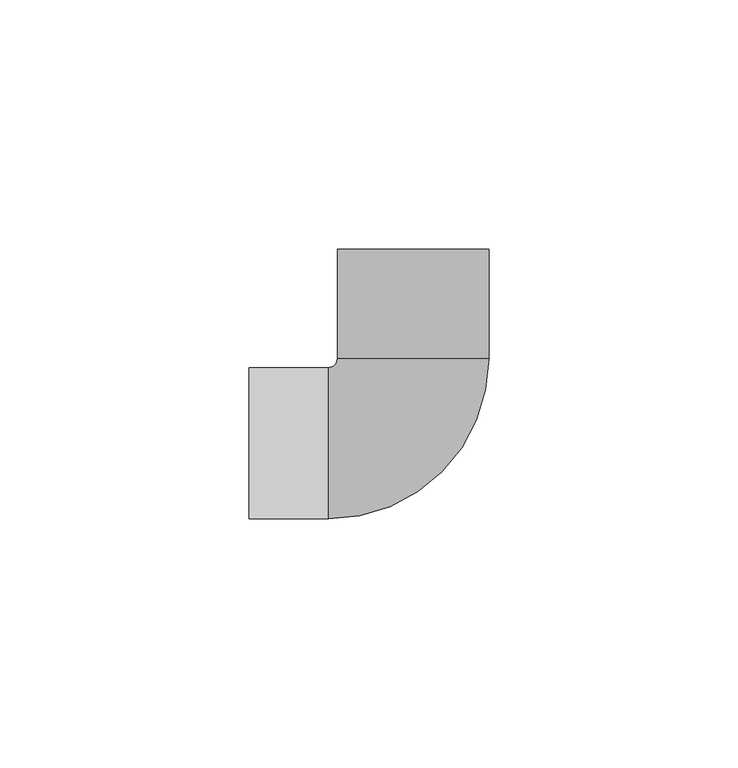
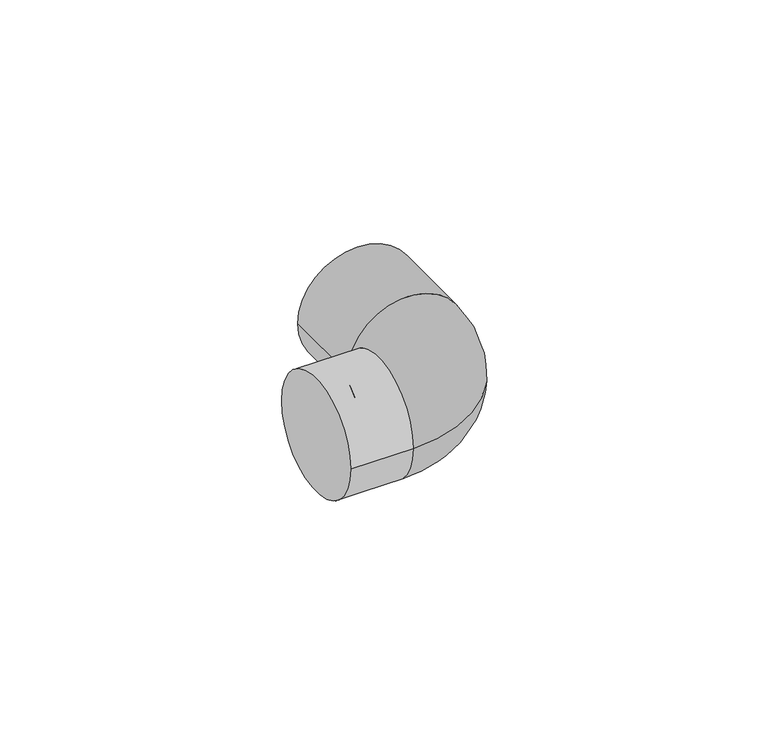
"""IFC4 building model written with IfcOpenShell, lengths in millimetres: pipe fitting geometry, 01101002 : Codos 90º."""

from ifc_helpers import new_model, si_unit, point, frame, origin, place, context, project, spatial, circle_curve, ellipse_curve, trimmed, source, transform, mapped, element, save
from ifc_brep_helpers import plane_surface, cylinder_surface, revolved_surface, advanced_brep


def pipe_fitting_780c1117(model_context):
    return source(origin(), model_context, "Body", "AdvancedBrep", [
        advanced_brep(
        [(-17.0, -15.2, 0.0), (15.2, 17.0, 0.0), (-15.2, 17.0, 0.0), (-17.0, 15.2, 0.0), (-15.2, 39.0, 0.0), (15.2, 39.0, 0.0), (-33.0, 15.2, 0.0), (-33.0, -15.2, 0.0)],
        [
            (0, 1, circle_curve(frame((-17.0, 17.0, 0.0), z_axis=(0.0, 0.0, 1.0), x_axis=(1.0, 0.0, 0.0)), 32.2)),
            (1, 2, circle_curve(frame((0.0, 17.0, 0.0), z_axis=(0.0, -1.0, 0.0), x_axis=(1.0, 0.0, 0.0)), 15.2)),
            (2, 3, circle_curve(frame((-17.0, 17.0, 0.0), z_axis=(0.0, 0.0, -1.0), x_axis=(1.0, 0.0, 0.0)), 1.8)),
            (3, 0, circle_curve(frame((-17.0, 0.0, 0.0), z_axis=(1.0, 0.0, 0.0), x_axis=(0.0, -1.0, 0.0)), 15.2)),
            (2, 1, circle_curve(frame((0.0, 17.0, 0.0), z_axis=(0.0, -1.0, 0.0), x_axis=(1.0, 0.0, 0.0)), 15.2)),
            (0, 3, circle_curve(frame((-17.0, 0.0, 0.0), z_axis=(1.0, 0.0, 0.0), x_axis=(0.0, -1.0, 0.0)), 15.2)),
            (4, 5, circle_curve(frame((0.0, 39.0, 0.0), z_axis=(0.0, 1.0, 0.0), x_axis=(1.0, 0.0, 0.0)), 15.2)),
            (5, 4, circle_curve(frame((0.0, 39.0, 0.0), z_axis=(0.0, 1.0, 0.0), x_axis=(1.0, 0.0, 0.0)), 15.2)),
            (6, 7, circle_curve(frame((-33.0, 0.0, 0.0), z_axis=(-1.0, 0.0, 0.0), x_axis=(0.0, -1.0, 0.0)), 15.2)),
            (7, 6, circle_curve(frame((-33.0, 0.0, 0.0), z_axis=(-1.0, 0.0, 0.0), x_axis=(0.0, -1.0, 0.0)), 15.2)),
            (3, 6),
            (7, 0),
            (4, 2),
            (1, 5),
        ],
        [
            revolved_surface(trimmed(ellipse_curve(frame((0.0, 17.0, 0.0), z_axis=(0.0, 1.0, 0.0), x_axis=(1.0, 0.0, 0.0)), 15.2, 15.2), [point((-15.2, 17.0, 0.0))], [point((15.2, 17.0, 0.0))], True, "CARTESIAN"), (-17.0, 17.0, 0.0), (0.0, 0.0, -1.0)),
            revolved_surface(trimmed(ellipse_curve(frame((0.0, 17.0, 0.0), z_axis=(0.0, 1.0, 0.0), x_axis=(1.0, 0.0, 0.0)), 15.2, 15.2), [point((15.2, 17.0, 0.0))], [point((-15.2, 17.0, 0.0))], True, "CARTESIAN"), (-17.0, 17.0, 0.0), (0.0, 0.0, -1.0)),
            plane_surface(frame((0.0, 39.0, 0.0), z_axis=(0.0, 1.0, 0.0), x_axis=(0.0, 0.0, 1.0))),
            plane_surface(frame((-33.0, 0.0, 0.0), z_axis=(-1.0, 0.0, 0.0), x_axis=(0.0, 0.0, 1.0))),
            cylinder_surface(frame((-17.0, 0.0, 0.0), z_axis=(1.0, 0.0, 0.0), x_axis=(0.0, -1.0, 0.0)), 15.2),
            cylinder_surface(frame((0.0, 39.0, 0.0), z_axis=(0.0, 1.0, 0.0), x_axis=(1.0, 0.0, 0.0)), 15.2),
        ],
        [
            (0, [[1, 2, 3, 4]]),
            (1, [[-3, 5, -1, 6]]),
            (2, [[7, 8]]),
            (3, [[9, 10]]),
            (4, [[-4, 11, -10, 12]]),
            (4, [[-6, -12, -9, -11]]),
            (5, [[-7, 13, -2, 14]]),
            (5, [[-8, -14, -5, -13]]),
        ],
    ),
    ])


if __name__ == "__main__":
    model = new_model("IFC4")
    model_context = context("Model", 3, world=origin())
    ifc_project = project(units=[si_unit("LENGTHUNIT", "METRE", prefix="MILLI")], contexts=[model_context])
    site = spatial("IfcSite", under=ifc_project)
    building = spatial("IfcBuilding", under=site)
    placement = place(None, origin())
    pipe_fitting_shape = pipe_fitting_780c1117(model_context)
    element("IfcPipeFitting", 1, ObjectType="01101002 : Codos 90º", at=placement, inside=building, context=model_context, shape_type="MappedRepresentation", body=[
        mapped(pipe_fitting_shape, transform((0.0, 0.0, 0.0), x_axis=(1.0, 0.0, 0.0), y_axis=(0.0, 1.0, 0.0), z_axis=(0.0, 0.0, 1.0))),
    ])
    save(model, "model.ifc")
